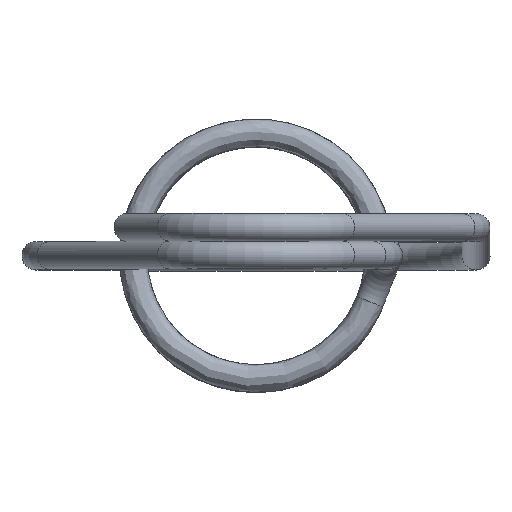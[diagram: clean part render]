
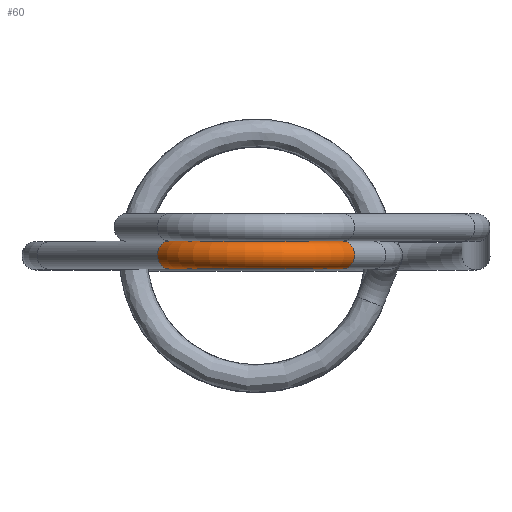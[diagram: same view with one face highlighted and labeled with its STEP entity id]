
A CAD part, top view. The second image highlights one B-rep face of the part: STEP entity #60.
In plain terms, the highlighted toroidal (fillet/blend) face has major radius 9 mm and minor radius 1.25 mm.
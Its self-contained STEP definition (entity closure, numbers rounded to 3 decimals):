
#60=ADVANCED_FACE('',(#102,#103),#85,.T.);
#85=TOROIDAL_SURFACE('',#340,9.,1.25);
#102=FACE_BOUND('',#144,.T.);
#103=FACE_BOUND('',#145,.T.);
#144=EDGE_LOOP('',(#190));
#145=EDGE_LOOP('',(#191));
#190=ORIENTED_EDGE('',*,*,#275,.T.);
#191=ORIENTED_EDGE('',*,*,#276,.F.);
#248=VERTEX_POINT('',#504);
#249=VERTEX_POINT('',#506);
#275=EDGE_CURVE('',#248,#248,#304,.T.);
#276=EDGE_CURVE('',#249,#249,#305,.T.);
#304=CIRCLE('',#338,1.25);
#305=CIRCLE('',#339,1.25);
#338=AXIS2_PLACEMENT_3D('',#503,#408,#409);
#339=AXIS2_PLACEMENT_3D('',#505,#410,#411);
#340=AXIS2_PLACEMENT_3D('',#507,#412,#413);
#408=DIRECTION('',(-0.5,0.,0.866));
#409=DIRECTION('',(0.866,0.,0.5));
#410=DIRECTION('',(-0.5,0.,-0.866));
#411=DIRECTION('',(-0.866,0.,0.5));
#412=DIRECTION('',(0.,-1.,0.));
#413=DIRECTION('',(0.,0.,1.));
#503=CARTESIAN_POINT('',(7.794,0.023,20.7));
#504=CARTESIAN_POINT('',(8.876,0.023,21.325));
#505=CARTESIAN_POINT('',(-7.794,0.023,20.7));
#506=CARTESIAN_POINT('',(-8.876,0.023,21.325));
#507=CARTESIAN_POINT('',(0.,0.023,16.2));
